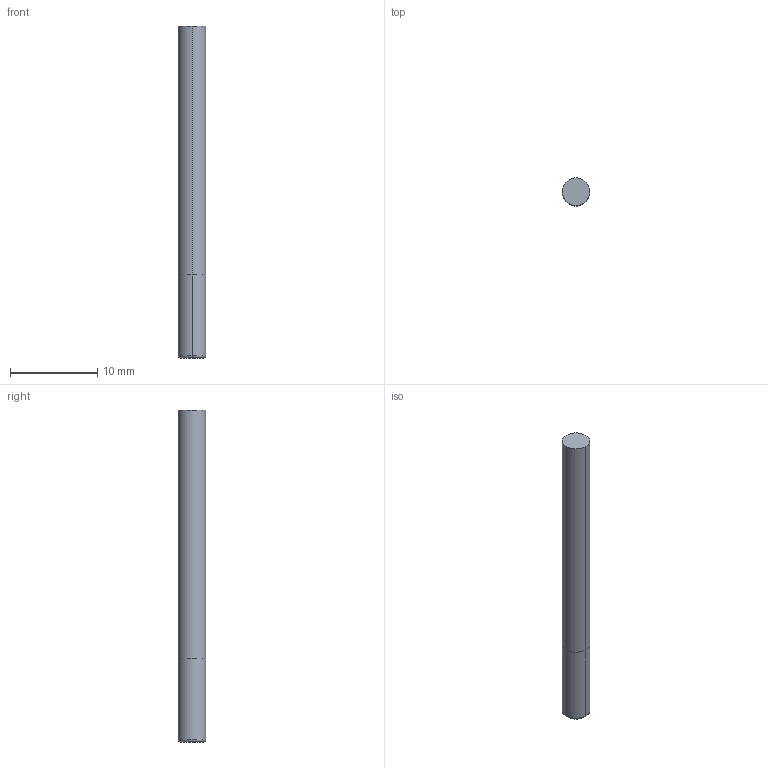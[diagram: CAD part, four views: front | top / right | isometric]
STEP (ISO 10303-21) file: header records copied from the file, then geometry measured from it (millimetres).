
FILE_DESCRIPTION((' '),'2;1');
FILE_NAME( '3MVR1250R.010AH.stp', '2026-01-21T19:05:44', (' '), ('--- Datakit www.datakit.com---'), ' Datakit CrossCadWare V2025.4 Sep 19 2025', 'Mastercam 2027', ' ');
FILE_SCHEMA(('AUTOMOTIVE_DESIGN { 1 0 10303 214 1 1 1 1 }'));
Length unit declared in the file: inch
Products named in the file (1): 3MVR1250R
Bounding box: 3.17 x 3.17 x 38.1 mm (x, y, z)
Volume: 301.5 mm3; surface area: 394.7 mm2
Topology: 1 solids, 1 shells, 8 faces, 14 edges, 8 vertices
Faces by surface type: cylinder 4, plane 2, torus 2
Entity records: 266 total; most frequent: DIRECTION 50, CARTESIAN_POINT 35, ORIENTED_EDGE 28, AXIS2_PLACEMENT_3D 23, EDGE_CURVE 14, CIRCLE 10, VERTEX_POINT 8, EDGE_LOOP 8
